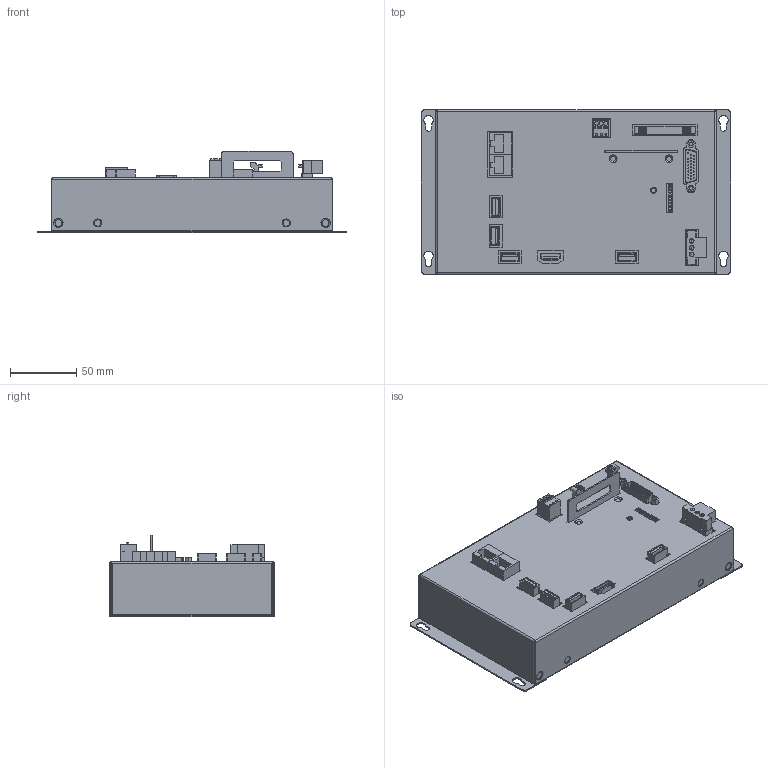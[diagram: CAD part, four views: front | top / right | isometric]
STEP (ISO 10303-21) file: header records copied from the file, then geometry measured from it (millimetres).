
FILE_DESCRIPTION (( 'STEP AP214' ), '1' );
FILE_NAME ('零件1^D01单板机装配体.STEP', '2024-11-28T03:35:39', ( '' ), ( '' ), 'SwSTEP 2.0', 'SolidWorks 2018', '' );
FILE_SCHEMA (( 'AUTOMOTIVE_DESIGN' ));
Length unit declared in the file: millimetre
Products named in the file (1): 零件1^D01单板机装配体
Bounding box: 233 x 124 x 61 mm (x, y, z)
Volume: 966778.6 mm3; surface area: 152936.9 mm2
Topology: 1 solids, 18 shells, 842 faces, 2097 edges, 1410 vertices
Faces by surface type: plane 675, cylinder 153, cone 10, bspline 4
Full cylindrical faces by diameter (mm): 0.8 x53, 1 x3, 1.114 x8, 1.5 x3, 3 x7, 3.5 x4, 4.5 x1
Entity records: 24080 total; most frequent: CARTESIAN_POINT 4333, DIRECTION 3914, ORIENTED_EDGE 3876, EDGE_CURVE 1938, LINE 1592, VECTOR 1592, VERTEX_POINT 1340, AXIS2_PLACEMENT_3D 1161
